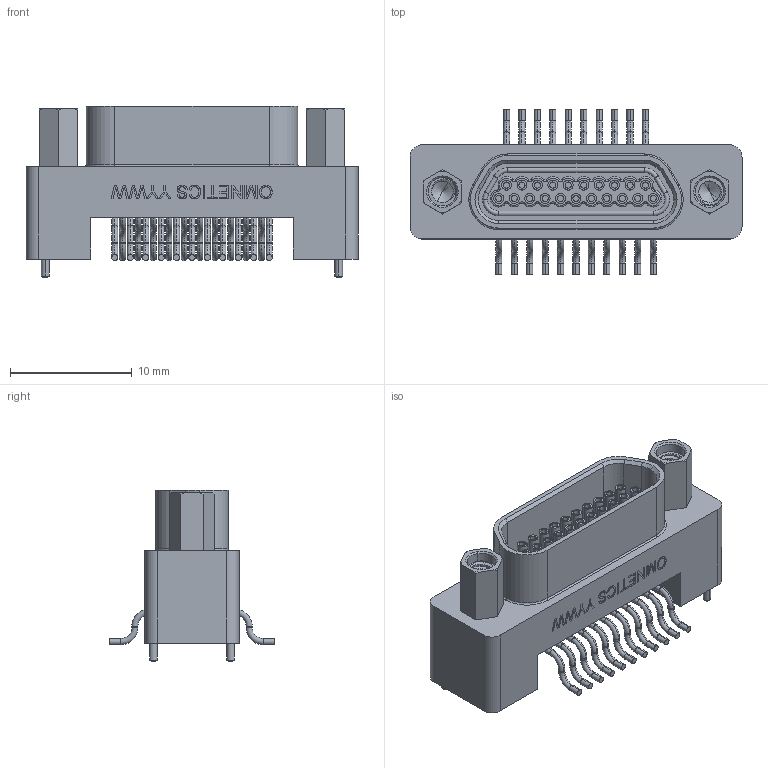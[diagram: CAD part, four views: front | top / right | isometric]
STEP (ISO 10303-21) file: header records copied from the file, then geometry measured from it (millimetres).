
FILE_DESCRIPTION (( 'STEP AP214' ), '1' );
FILE_NAME ('A99701-021 REV C.STEP', '2016-06-01T18:04:30', ( '' ), ( '' ), 'SwSTEP 2.0', 'SolidWorks 2015', '' );
FILE_SCHEMA (( 'AUTOMOTIVE_DESIGN' ));
Length unit declared in the file: inch
Products named in the file (1): A99701-021 REV C
Bounding box: 27.3 x 13.51 x 14.1 mm (x, y, z)
Volume: 1325.1 mm3; surface area: 2165.1 mm2
Topology: 1 solids, 1 shells, 873 faces, 2130 edges, 1347 vertices
Faces by surface type: cylinder 366, plane 233, torus 181, bspline 60, cone 33
Entity records: 35572 total; most frequent: CARTESIAN_POINT 14683, DIRECTION 4422, ORIENTED_EDGE 4252, EDGE_CURVE 2126, AXIS2_PLACEMENT_3D 1786, VERTEX_POINT 1347, CIRCLE 972, EDGE_LOOP 965
